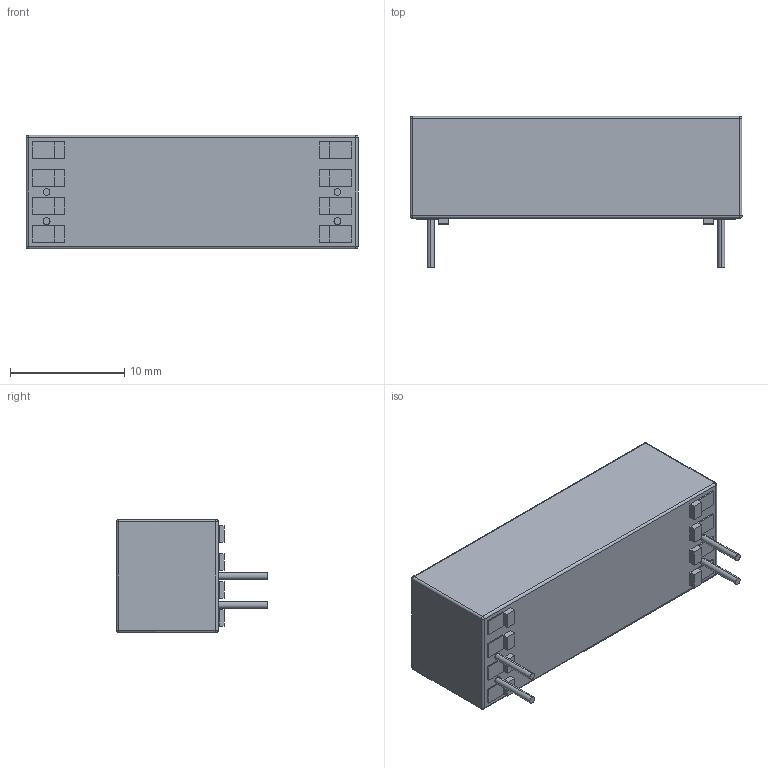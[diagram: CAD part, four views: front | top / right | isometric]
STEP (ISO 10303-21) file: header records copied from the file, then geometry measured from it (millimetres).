
FILE_DESCRIPTION (( 'STEP AP203' ), '1' );
FILE_NAME ('88-1-A.STEP', '2010-06-29T13:34:10', ( ' ' ), ( '' ), 'SwSTEP 2.0', 'SolidWorks 2009', '' );
FILE_SCHEMA (( 'CONFIG_CONTROL_DESIGN' ));
Length unit declared in the file: millimetre
Products named in the file (1): 88-1-A
Bounding box: 29 x 13.2 x 9.9 mm (x, y, z)
Volume: 2561.8 mm3; surface area: 1303.5 mm2
Topology: 1 solids, 1 shells, 771 faces, 2029 edges, 1336 vertices
Faces by surface type: plane 483, bspline 254, cylinder 24, sphere 10
Entity records: 36950 total; most frequent: CARTESIAN_POINT 19567, ORIENTED_EDGE 4042, DIRECTION 2599, EDGE_CURVE 2021, VECTOR 1463, LINE 1463, VERTEX_POINT 1336, EDGE_LOOP 855
